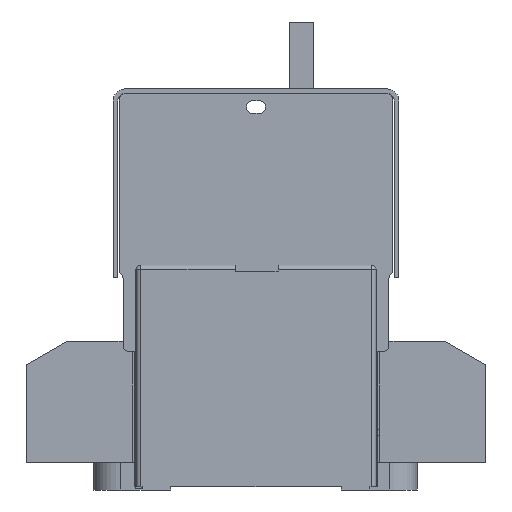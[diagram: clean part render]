
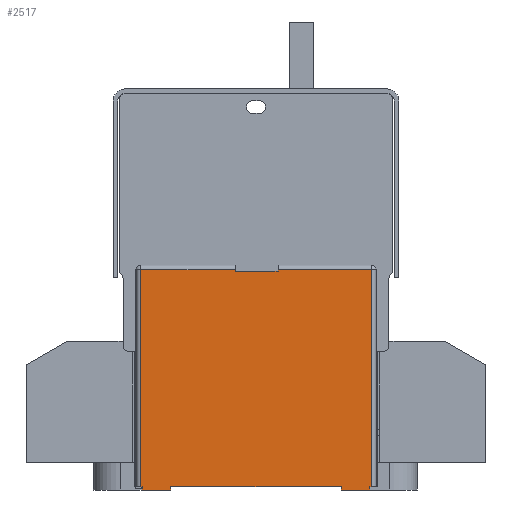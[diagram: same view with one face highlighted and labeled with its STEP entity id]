
A CAD part, left-side view. The second image highlights one B-rep face of the part: STEP entity #2517.
In plain terms, the highlighted planar face has unit normal (-1, 0, 0).
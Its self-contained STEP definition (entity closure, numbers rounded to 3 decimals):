
#2517=ADVANCED_FACE('',(#4359),#3296,.F.);
#3296=PLANE('',#24532);
#4359=FACE_OUTER_BOUND('',#5675,.T.);
#5675=EDGE_LOOP('',(#11663,#11664,#11665,#11666,#11667,#11668,#11669,#11670,
#11671,#11672,#11673,#11674,#11675,#11676,#11677,#11678));
#11663=ORIENTED_EDGE('',*,*,#17645,.F.);
#11664=ORIENTED_EDGE('',*,*,#17438,.T.);
#11665=ORIENTED_EDGE('',*,*,#17262,.T.);
#11666=ORIENTED_EDGE('',*,*,#17647,.F.);
#11667=ORIENTED_EDGE('',*,*,#17265,.T.);
#11668=ORIENTED_EDGE('',*,*,#17398,.T.);
#11669=ORIENTED_EDGE('',*,*,#17648,.T.);
#11670=ORIENTED_EDGE('',*,*,#17649,.T.);
#11671=ORIENTED_EDGE('',*,*,#17650,.F.);
#11672=ORIENTED_EDGE('',*,*,#17479,.F.);
#11673=ORIENTED_EDGE('',*,*,#17484,.T.);
#11674=ORIENTED_EDGE('',*,*,#17651,.T.);
#11675=ORIENTED_EDGE('',*,*,#17492,.F.);
#11676=ORIENTED_EDGE('',*,*,#17486,.F.);
#11677=ORIENTED_EDGE('',*,*,#17652,.T.);
#11678=ORIENTED_EDGE('',*,*,#17653,.T.);
#14219=VERTEX_POINT('',#36647);
#14220=VERTEX_POINT('',#36649);
#14222=VERTEX_POINT('',#36655);
#14223=VERTEX_POINT('',#36656);
#14311=VERTEX_POINT('',#36961);
#14312=VERTEX_POINT('',#36965);
#14352=VERTEX_POINT('',#37130);
#14353=VERTEX_POINT('',#37131);
#14357=VERTEX_POINT('',#37140);
#14358=VERTEX_POINT('',#37145);
#14359=VERTEX_POINT('',#37146);
#14362=VERTEX_POINT('',#37154);
#14457=VERTEX_POINT('',#37449);
#14458=VERTEX_POINT('',#37454);
#14459=VERTEX_POINT('',#37456);
#14460=VERTEX_POINT('',#37460);
#17262=EDGE_CURVE('',#14220,#14219,#19880,.T.);
#17265=EDGE_CURVE('',#14222,#14223,#19882,.T.);
#17398=EDGE_CURVE('',#14223,#14312,#19952,.T.);
#17438=EDGE_CURVE('',#14311,#14220,#19968,.T.);
#17479=EDGE_CURVE('',#14352,#14353,#20003,.T.);
#17484=EDGE_CURVE('',#14352,#14357,#20008,.T.);
#17486=EDGE_CURVE('',#14358,#14359,#20010,.T.);
#17492=EDGE_CURVE('',#14359,#14362,#20016,.T.);
#17645=EDGE_CURVE('',#14311,#14457,#20155,.T.);
#17647=EDGE_CURVE('',#14222,#14219,#20156,.T.);
#17648=EDGE_CURVE('',#14312,#14458,#20157,.T.);
#17649=EDGE_CURVE('',#14458,#14459,#20158,.T.);
#17650=EDGE_CURVE('',#14353,#14459,#20159,.T.);
#17651=EDGE_CURVE('',#14357,#14362,#20160,.T.);
#17652=EDGE_CURVE('',#14358,#14460,#20161,.T.);
#17653=EDGE_CURVE('',#14460,#14457,#20162,.T.);
#19880=LINE('',#36648,#22375);
#19882=LINE('',#36654,#22377);
#19952=LINE('',#36966,#22447);
#19968=LINE('',#37046,#22463);
#20003=LINE('',#37129,#22498);
#20008=LINE('',#37141,#22503);
#20010=LINE('',#37144,#22505);
#20016=LINE('',#37157,#22511);
#20155=LINE('',#37448,#22650);
#20156=LINE('',#37452,#22651);
#20157=LINE('',#37453,#22652);
#20158=LINE('',#37455,#22653);
#20159=LINE('',#37457,#22654);
#20160=LINE('',#37458,#22655);
#20161=LINE('',#37459,#22656);
#20162=LINE('',#37461,#22657);
#22375=VECTOR('',#29729,1.);
#22377=VECTOR('',#29735,1.);
#22447=VECTOR('',#30023,1.);
#22463=VECTOR('',#30135,1.);
#22498=VECTOR('',#30220,1.);
#22503=VECTOR('',#30227,1.);
#22505=VECTOR('',#30231,1.);
#22511=VECTOR('',#30239,1.);
#22650=VECTOR('',#30496,1.);
#22651=VECTOR('',#30501,1.);
#22652=VECTOR('',#30502,1.);
#22653=VECTOR('',#30503,1.);
#22654=VECTOR('',#30504,1.);
#22655=VECTOR('',#30505,1.);
#22656=VECTOR('',#30506,1.);
#22657=VECTOR('',#30507,1.);
#24532=AXIS2_PLACEMENT_3D('',#37462,#30508,#30509);
#29729=DIRECTION('',(0.,0.,-1.));
#29735=DIRECTION('',(0.,0.,1.));
#30023=DIRECTION('',(0.,1.,0.));
#30135=DIRECTION('',(0.,1.,0.));
#30220=DIRECTION('',(0.,1.,0.));
#30227=DIRECTION('',(0.,0.,1.));
#30231=DIRECTION('',(0.,1.,0.));
#30239=DIRECTION('',(0.,0.,1.));
#30496=DIRECTION('',(0.,0.,-1.));
#30501=DIRECTION('',(0.,-1.,0.));
#30502=DIRECTION('',(0.,0.,-1.));
#30503=DIRECTION('',(0.,-1.,0.));
#30504=DIRECTION('',(0.,0.,1.));
#30505=DIRECTION('',(0.,-1.,0.));
#30506=DIRECTION('',(0.,0.,1.));
#30507=DIRECTION('',(0.,-1.,0.));
#30508=DIRECTION('',(1.,0.,0.));
#30509=DIRECTION('',(0.,0.,-1.));
#36647=CARTESIAN_POINT('',(-69.,-31.985,67.));
#36648=CARTESIAN_POINT('',(-69.,-31.985,69.1));
#36649=CARTESIAN_POINT('',(-69.,-31.985,67.6));
#36654=CARTESIAN_POINT('',(-69.,-17.985,69.1));
#36655=CARTESIAN_POINT('',(-69.,-17.985,67.));
#36656=CARTESIAN_POINT('',(-69.,-17.985,67.6));
#36961=CARTESIAN_POINT('',(-69.,-62.735,67.6));
#36965=CARTESIAN_POINT('',(-69.,13.265,67.6));
#36966=CARTESIAN_POINT('',(-69.,13.265,67.6));
#37046=CARTESIAN_POINT('',(-69.,13.265,67.6));
#37129=CARTESIAN_POINT('',(-69.,3.265,-4.9));
#37130=CARTESIAN_POINT('',(-69.,3.265,-4.9));
#37131=CARTESIAN_POINT('',(-69.,12.765,-4.9));
#37140=CARTESIAN_POINT('',(-69.,3.265,-3.9));
#37141=CARTESIAN_POINT('',(-69.,3.265,-5.9));
#37144=CARTESIAN_POINT('',(-69.,-62.235,-4.9));
#37145=CARTESIAN_POINT('',(-69.,-62.235,-4.9));
#37146=CARTESIAN_POINT('',(-69.,-52.735,-4.9));
#37154=CARTESIAN_POINT('',(-69.,-52.735,-3.9));
#37157=CARTESIAN_POINT('',(-69.,-52.735,-5.9));
#37448=CARTESIAN_POINT('',(-69.,-62.735,69.1));
#37449=CARTESIAN_POINT('',(-69.,-62.735,-3.9));
#37452=CARTESIAN_POINT('',(-69.,12.765,67.));
#37453=CARTESIAN_POINT('',(-69.,13.265,69.1));
#37454=CARTESIAN_POINT('',(-69.,13.265,-3.9));
#37455=CARTESIAN_POINT('',(-69.,-62.235,-3.9));
#37456=CARTESIAN_POINT('',(-69.,12.765,-3.9));
#37457=CARTESIAN_POINT('',(-69.,12.765,-5.9));
#37458=CARTESIAN_POINT('',(-69.,-62.235,-3.9));
#37459=CARTESIAN_POINT('',(-69.,-62.235,-5.9));
#37460=CARTESIAN_POINT('',(-69.,-62.235,-3.9));
#37461=CARTESIAN_POINT('',(-69.,-62.235,-3.9));
#37462=CARTESIAN_POINT('',(-69.,-62.235,69.1));
